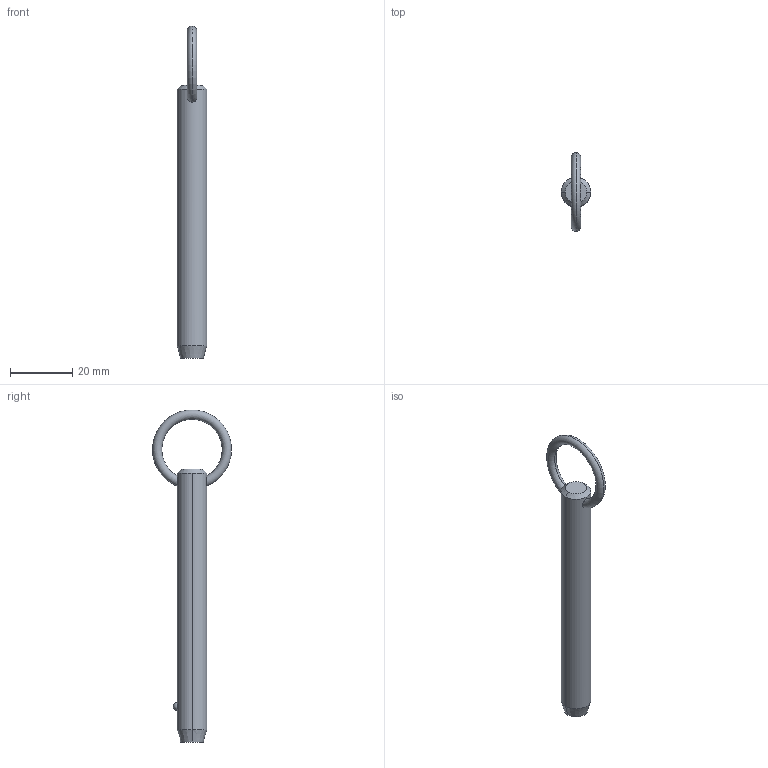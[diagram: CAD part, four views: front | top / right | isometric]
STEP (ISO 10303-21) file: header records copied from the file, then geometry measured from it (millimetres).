
FILE_DESCRIPTION (( 'STEP AP203' ), '1' );
FILE_NAME ('P1250.037-270.step', '2019-07-29T20:03:05', ( '' ), ( '' ), 'SwSTEP 2.0', 'SolidWorks 2017', '' );
FILE_SCHEMA (( 'CONFIG_CONTROL_DESIGN' ));
Length unit declared in the file: millimetre
Products named in the file (1): P1250.037-270
Bounding box: 9.52 x 25.39 x 106.7 mm (x, y, z)
Volume: 6590.2 mm3; surface area: 3263.6 mm2
Topology: 1 solids, 1 shells, 12 faces, 28 edges, 17 vertices
Faces by surface type: cone 4, torus 2, sphere 2, cylinder 2, plane 2
Entity records: 523 total; most frequent: CARTESIAN_POINT 190, DIRECTION 56, ORIENTED_EDGE 48, AXIS2_PLACEMENT_3D 25, EDGE_CURVE 24, VERTEX_POINT 15, EDGE_LOOP 15, CIRCLE 12
